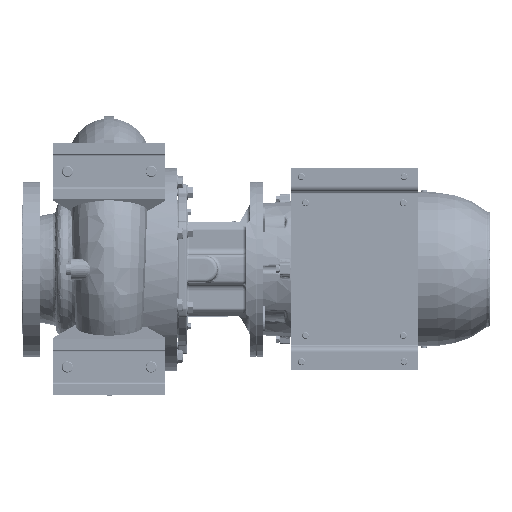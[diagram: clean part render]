
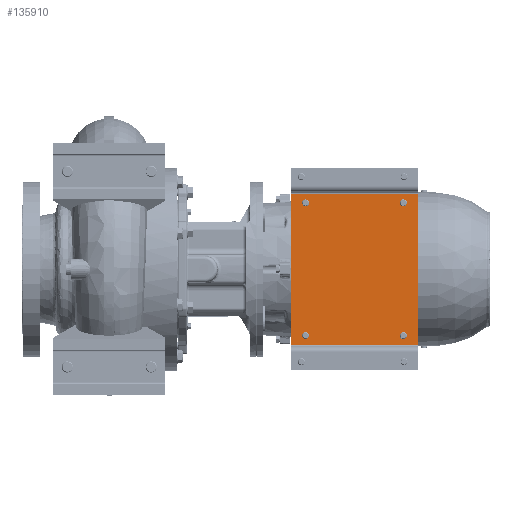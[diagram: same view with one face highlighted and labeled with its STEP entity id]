
A CAD part, front view. The second image highlights one B-rep face of the part: STEP entity #135910.
In plain terms, the highlighted planar face has unit normal (0, -1, 0).
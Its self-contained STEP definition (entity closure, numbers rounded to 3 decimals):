
#7655 = AXIS2_PLACEMENT_3D ( 'NONE', #182139, #44601, #75593 ) ;
#10180 = DIRECTION ( 'NONE',  ( 1., 0., 0. ) ) ;
#12346 = VERTEX_POINT ( 'NONE', #140503 ) ;
#15148 = FACE_BOUND ( 'NONE', #159489, .T. ) ;
#15521 = CARTESIAN_POINT ( 'NONE',  ( 240., 78., -21. ) ) ;
#18560 = EDGE_CURVE ( 'NONE', #149228, #67009, #205986, .T. ) ;
#21536 = ORIENTED_EDGE ( 'NONE', *, *, #56694, .T. ) ;
#24500 = AXIS2_PLACEMENT_3D ( 'NONE', #220288, #133222, #119404 ) ;
#28844 = DIRECTION ( 'NONE',  ( 0., 1., 0. ) ) ;
#29312 = EDGE_CURVE ( 'NONE', #171342, #56405, #33088, .T. ) ;
#32913 = CARTESIAN_POINT ( 'NONE',  ( 240., 78., -156. ) ) ;
#33088 = CIRCLE ( 'NONE', #194048, 5. ) ;
#39643 = CARTESIAN_POINT ( 'NONE',  ( 240., 78., -161. ) ) ;
#43885 = DIRECTION ( 'NONE',  ( 1., 0., 0. ) ) ;
#44013 = CIRCLE ( 'NONE', #128086, 5. ) ;
#44601 = DIRECTION ( 'NONE',  ( 0., 1., 0. ) ) ;
#45721 = EDGE_CURVE ( 'NONE', #83741, #46479, #185118, .T. ) ;
#46452 = VERTEX_POINT ( 'NONE', #157940 ) ;
#46479 = VERTEX_POINT ( 'NONE', #168657 ) ;
#50668 = FACE_OUTER_BOUND ( 'NONE', #151879, .T. ) ;
#56289 = LINE ( 'NONE', #165050, #75361 ) ;
#56405 = VERTEX_POINT ( 'NONE', #59203 ) ;
#56694 = EDGE_CURVE ( 'NONE', #67009, #149228, #95080, .T. ) ;
#57433 = ORIENTED_EDGE ( 'NONE', *, *, #216993, .F. ) ;
#57686 = AXIS2_PLACEMENT_3D ( 'NONE', #140390, #73922, #177077 ) ;
#59203 = CARTESIAN_POINT ( 'NONE',  ( 50., 78., -16. ) ) ;
#59654 = DIRECTION ( 'NONE',  ( 0., 0., 1. ) ) ;
#64023 = DIRECTION ( 'NONE',  ( 0., 1., 0. ) ) ;
#64460 = FACE_BOUND ( 'NONE', #86220, .T. ) ;
#66186 = DIRECTION ( 'NONE',  ( 0., 1., 0. ) ) ;
#66191 = CARTESIAN_POINT ( 'NONE',  ( 253., 78., 0. ) ) ;
#67009 = VERTEX_POINT ( 'NONE', #78037 ) ;
#71422 = CARTESIAN_POINT ( 'NONE',  ( 240., 78., -26. ) ) ;
#71631 = CARTESIAN_POINT ( 'NONE',  ( 50., 78., -156. ) ) ;
#71684 = DIRECTION ( 'NONE',  ( 1., 0., 0. ) ) ;
#73922 = DIRECTION ( 'NONE',  ( 0., 1., 0. ) ) ;
#75361 = VECTOR ( 'NONE', #59654, 1000. ) ;
#75593 = DIRECTION ( 'NONE',  ( 1., 0., 0. ) ) ;
#78037 = CARTESIAN_POINT ( 'NONE',  ( 240., 78., -16. ) ) ;
#79361 = ORIENTED_EDGE ( 'NONE', *, *, #178434, .T. ) ;
#80059 = DIRECTION ( 'NONE',  ( 1., 0., 0. ) ) ;
#81637 = PLANE ( 'NONE',  #24500 ) ;
#83741 = VERTEX_POINT ( 'NONE', #32913 ) ;
#84178 = VECTOR ( 'NONE', #209870, 1000. ) ;
#85380 = DIRECTION ( 'NONE',  ( 0., 1., 0. ) ) ;
#86220 = EDGE_LOOP ( 'NONE', ( #79361, #147604 ) ) ;
#86910 = EDGE_CURVE ( 'NONE', #46479, #83741, #108424, .T. ) ;
#88949 = DIRECTION ( 'NONE',  ( 1., 0., 0. ) ) ;
#95080 = CIRCLE ( 'NONE', #128155, 5. ) ;
#96487 = VERTEX_POINT ( 'NONE', #129124 ) ;
#99542 = EDGE_CURVE ( 'NONE', #46452, #138770, #194966, .T. ) ;
#100633 = CARTESIAN_POINT ( 'NONE',  ( 50., 78., -161. ) ) ;
#103570 = ORIENTED_EDGE ( 'NONE', *, *, #86910, .T. ) ;
#108424 = CIRCLE ( 'NONE', #163415, 5. ) ;
#110222 = CIRCLE ( 'NONE', #7655, 5. ) ;
#110536 = CARTESIAN_POINT ( 'NONE',  ( 240., 78., -161. ) ) ;
#113628 = ORIENTED_EDGE ( 'NONE', *, *, #130367, .T. ) ;
#117865 = CARTESIAN_POINT ( 'NONE',  ( 253., 78., 0. ) ) ;
#119404 = DIRECTION ( 'NONE',  ( 1., 0., 0. ) ) ;
#124460 = DIRECTION ( 'NONE',  ( 0., 1., 0. ) ) ;
#127174 = ORIENTED_EDGE ( 'NONE', *, *, #213687, .T. ) ;
#128086 = AXIS2_PLACEMENT_3D ( 'NONE', #100633, #64023, #80059 ) ;
#128155 = AXIS2_PLACEMENT_3D ( 'NONE', #15521, #85380, #170272 ) ;
#129124 = CARTESIAN_POINT ( 'NONE',  ( 37., 78., -182. ) ) ;
#130367 = EDGE_CURVE ( 'NONE', #96487, #46452, #200853, .T. ) ;
#133222 = DIRECTION ( 'NONE',  ( 0., -1., 0. ) ) ;
#134770 = EDGE_CURVE ( 'NONE', #96487, #222857, #56289, .T. ) ;
#135910 = ADVANCED_FACE ( 'NONE', ( #15148, #64460, #154924, #203130, #50668 ), #81637, .T. ) ;
#138137 = ORIENTED_EDGE ( 'NONE', *, *, #99542, .T. ) ;
#138770 = VERTEX_POINT ( 'NONE', #66191 ) ;
#139449 = ORIENTED_EDGE ( 'NONE', *, *, #29312, .T. ) ;
#140390 = CARTESIAN_POINT ( 'NONE',  ( 50., 78., -21. ) ) ;
#140503 = CARTESIAN_POINT ( 'NONE',  ( 50., 78., -166. ) ) ;
#143847 = VERTEX_POINT ( 'NONE', #71631 ) ;
#147556 = CARTESIAN_POINT ( 'NONE',  ( 50., 78., -26. ) ) ;
#147604 = ORIENTED_EDGE ( 'NONE', *, *, #166512, .T. ) ;
#149228 = VERTEX_POINT ( 'NONE', #71422 ) ;
#151879 = EDGE_LOOP ( 'NONE', ( #57433, #183621, #113628, #138137 ) ) ;
#152251 = LINE ( 'NONE', #117865, #226105 ) ;
#154924 = FACE_BOUND ( 'NONE', #222255, .T. ) ;
#157940 = CARTESIAN_POINT ( 'NONE',  ( 253., 78., -182. ) ) ;
#159489 = EDGE_LOOP ( 'NONE', ( #21536, #225125 ) ) ;
#163415 = AXIS2_PLACEMENT_3D ( 'NONE', #39643, #124460, #88949 ) ;
#165050 = CARTESIAN_POINT ( 'NONE',  ( 37., 78., -182. ) ) ;
#166512 = EDGE_CURVE ( 'NONE', #12346, #143847, #44013, .T. ) ;
#168638 = DIRECTION ( 'NONE',  ( 1., 0., 0. ) ) ;
#168657 = CARTESIAN_POINT ( 'NONE',  ( 240., 78., -166. ) ) ;
#170272 = DIRECTION ( 'NONE',  ( 1., 0., 0. ) ) ;
#171342 = VERTEX_POINT ( 'NONE', #147556 ) ;
#176650 = CARTESIAN_POINT ( 'NONE',  ( 253., 78., -182. ) ) ;
#176981 = VECTOR ( 'NONE', #43885, 1000. ) ;
#177077 = DIRECTION ( 'NONE',  ( 1., 0., 0. ) ) ;
#178434 = EDGE_CURVE ( 'NONE', #143847, #12346, #110222, .T. ) ;
#181798 = CARTESIAN_POINT ( 'NONE',  ( 37., 78., 0. ) ) ;
#182139 = CARTESIAN_POINT ( 'NONE',  ( 50., 78., -161. ) ) ;
#182449 = CARTESIAN_POINT ( 'NONE',  ( 50., 78., -21. ) ) ;
#183621 = ORIENTED_EDGE ( 'NONE', *, *, #134770, .F. ) ;
#184248 = DIRECTION ( 'NONE',  ( 1., 0., 0. ) ) ;
#185118 = CIRCLE ( 'NONE', #199682, 5. ) ;
#187532 = EDGE_LOOP ( 'NONE', ( #191740, #103570 ) ) ;
#191740 = ORIENTED_EDGE ( 'NONE', *, *, #45721, .T. ) ;
#194048 = AXIS2_PLACEMENT_3D ( 'NONE', #182449, #28844, #168638 ) ;
#194966 = LINE ( 'NONE', #176650, #84178 ) ;
#197498 = CARTESIAN_POINT ( 'NONE',  ( 253., 78., -182. ) ) ;
#197678 = DIRECTION ( 'NONE',  ( 0., 1., 0. ) ) ;
#199682 = AXIS2_PLACEMENT_3D ( 'NONE', #110536, #197678, #71684 ) ;
#200853 = LINE ( 'NONE', #197498, #176981 ) ;
#203130 = FACE_BOUND ( 'NONE', #187532, .T. ) ;
#205986 = CIRCLE ( 'NONE', #209715, 5. ) ;
#209715 = AXIS2_PLACEMENT_3D ( 'NONE', #223122, #66186, #184248 ) ;
#209870 = DIRECTION ( 'NONE',  ( 0., 0., 1. ) ) ;
#213687 = EDGE_CURVE ( 'NONE', #56405, #171342, #218607, .T. ) ;
#216993 = EDGE_CURVE ( 'NONE', #222857, #138770, #152251, .T. ) ;
#218607 = CIRCLE ( 'NONE', #57686, 5. ) ;
#220288 = CARTESIAN_POINT ( 'NONE',  ( 253., 78., -182. ) ) ;
#222255 = EDGE_LOOP ( 'NONE', ( #127174, #139449 ) ) ;
#222857 = VERTEX_POINT ( 'NONE', #181798 ) ;
#223122 = CARTESIAN_POINT ( 'NONE',  ( 240., 78., -21. ) ) ;
#225125 = ORIENTED_EDGE ( 'NONE', *, *, #18560, .T. ) ;
#226105 = VECTOR ( 'NONE', #10180, 1000. ) ;
